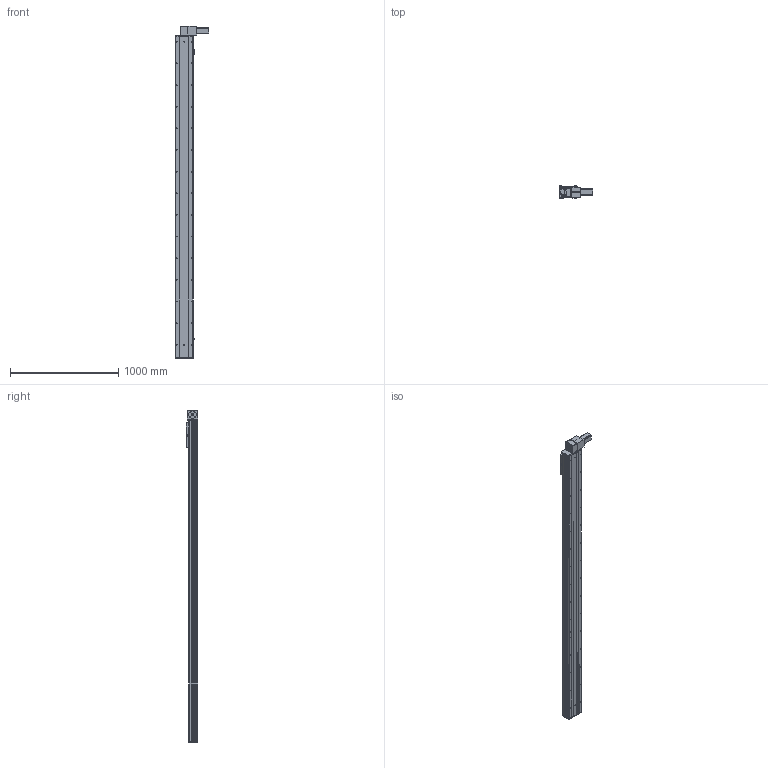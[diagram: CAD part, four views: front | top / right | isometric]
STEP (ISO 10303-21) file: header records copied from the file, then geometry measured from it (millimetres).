
FILE_DESCRIPTION (( 'STEP AP203' ), '1' );
FILE_NAME ('Y170CB-D105-S2650-BD-P400W.STEP', '2020-02-20T09:15:04', ( '微软用户' ), ( '微软中国' ), 'SwSTEP 2.0', 'SolidWorks 2017', '' );
FILE_SCHEMA (( 'CONFIG_CONTROL_DESIGN' ));
Length unit declared in the file: millimetre
Products named in the file (16): 70B喘謫眊----; 70C--詩湍揤踡え-; 0B薊粣ん眊-400W--; 70CB--耜裔; Y170CB-D105-S2650-BD-P400W; 70C-雄赽釱-奻-; 0C--雄赽釱俋欶-170; B-源倛裔啣; 70CB-詩湍--; san松下电机400不带刹车----; Y100-135俋离換覜ん--; 70CB-掛极-; Y170CB-陔俋离換覜結え---; --70CB --喘謫眊楊擘啣-; Y1埴倛裔; 70CB-耜裔啣-
Assembly tree (19 placements, depth 2):
  Y170CB-D105-S2650-BD-P400W
    B-源倛裔啣
    san松下电机400不带刹车----
    70CB-掛极-
    --70CB --喘謫眊楊擘啣-
    70CB-耜裔啣-  x2
    70C--詩湍揤踡え-  x2
    70CB--耜裔
    70C-雄赽釱-奻-
    0C--雄赽釱俋欶-170
    70CB-詩湍--
    Y100-135俋离換覜ん--  x3
    Y170CB-陔俋离換覜結え---
    Y1埴倛裔
    70B喘謫眊----
    0B薊粣ん眊-400W--
Bounding box: 313.5 x 107 x 3066 mm (x, y, z)
Volume: 13323819.2 mm3; surface area: 4681201.3 mm2
Topology: 19 solids, 19 shells, 984 faces, 2618 edges, 1736 vertices
Faces by surface type: cylinder 538, plane 422, cone 24
Entity records: 31055 total; most frequent: CARTESIAN_POINT 5806, DIRECTION 5055, ORIENTED_EDGE 4718, EDGE_CURVE 2359, AXIS2_PLACEMENT_3D 1881, VERTEX_POINT 1566, VECTOR 1293, LINE 1293
